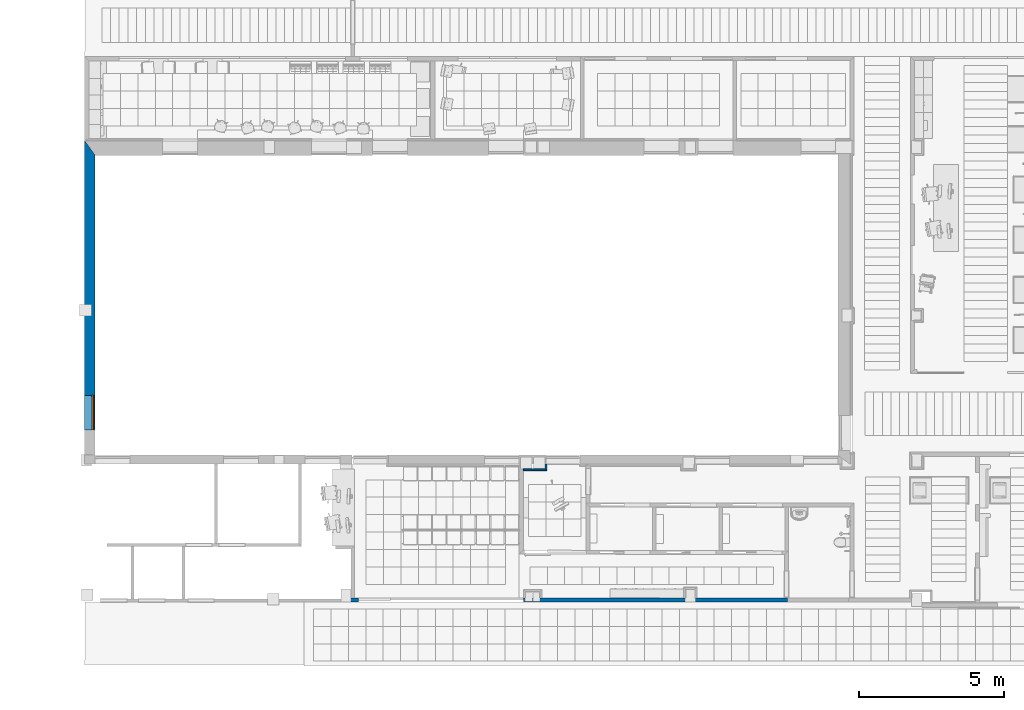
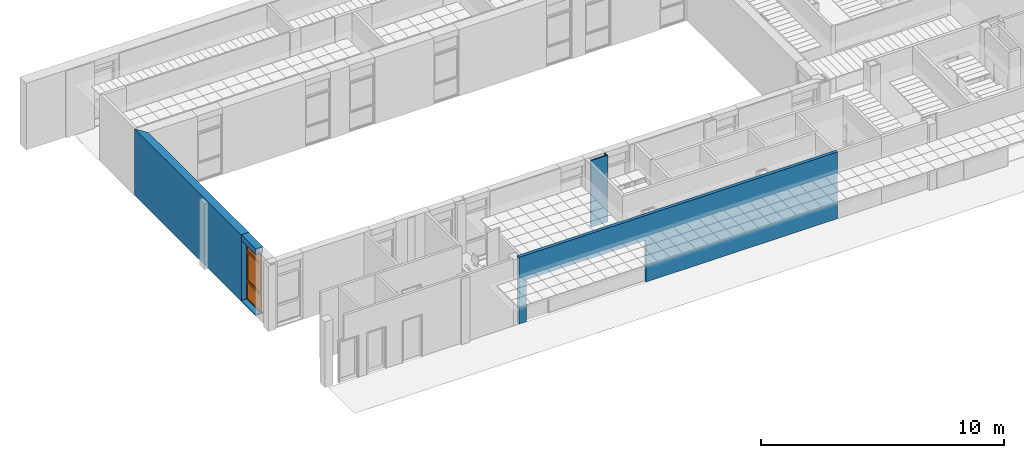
# One storey, part 27 of 68: 5 walls, 1 proxy, 3 openings.
"""IFC2X3 building model written with IfcOpenShell, lengths in millimetres."""

from ifc_helpers import new_model, entity, si_unit, converted_unit, derived_unit, money_unit, direction, frame, origin_with_axes, origin_2d_with_axis, place, context, subcontext, project, spatial, polyline, rectangle, outline, extrude, open_shell, faceted_brep, surface_model, source, transform, mapped, material, layer, layer_set, layer_usage, type_object, element, fill, save


model = new_model("IFC2X3")

# Units and contexts
model_context = context("Model", 3, precision=0.01, world=origin_with_axes(), true_north=direction((0.0, 1.0)))
body_context = subcontext(model_context, "Body", "Model", "MODEL_VIEW")
ifc_project = project(units=[si_unit("LENGTHUNIT", "METRE", prefix="MILLI"), si_unit("AREAUNIT", "SQUARE_METRE"), si_unit("VOLUMEUNIT", "CUBIC_METRE"), converted_unit("PLANEANGLEUNIT", "DEGREE", entity("IfcPlaneAngleMeasure", 0.0174532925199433), si_unit("PLANEANGLEUNIT", "RADIAN"), dimensions=[0, 0, 0, 0, 0, 0, 0]), money_unit("USD"), converted_unit("TIMEUNIT", "Year", entity("IfcTimeMeasure", 31557600.0), si_unit("TIMEUNIT", "SECOND"), dimensions=[0, 0, 1, 0, 0, 0, 0]), si_unit("MASSUNIT", "GRAM", prefix="KILO"), si_unit("THERMODYNAMICTEMPERATUREUNIT", "DEGREE_CELSIUS"), si_unit("LUMINOUSINTENSITYUNIT", "LUMEN"), si_unit("ENERGYUNIT", "JOULE", prefix="MEGA"), derived_unit("THERMALCONDUCTANCEUNIT", [(si_unit("POWERUNIT", "WATT"), 1), (si_unit("LENGTHUNIT", "METRE"), -1), (si_unit("THERMODYNAMICTEMPERATUREUNIT", "KELVIN"), -1)]), derived_unit("SPECIFICHEATCAPACITYUNIT", [(si_unit("ENERGYUNIT", "JOULE"), 1), (si_unit("MASSUNIT", "GRAM", prefix="KILO"), -1), (si_unit("THERMODYNAMICTEMPERATUREUNIT", "KELVIN"), -1)]), derived_unit("MASSDENSITYUNIT", [(si_unit("MASSUNIT", "GRAM", prefix="KILO"), 1), (si_unit("VOLUMEUNIT", "CUBIC_METRE"), -1)])], contexts=[model_context])

# Site, building, storey
site_placement = place(None, origin_with_axes())
site = spatial("IfcSite", under=ifc_project, at=site_placement, Name="Sitio", CompositionType="ELEMENT")
building_placement = place(site_placement, origin_with_axes())
building = spatial("IfcBuilding", under=site, at=building_placement, Name="Construcción", CompositionType="ELEMENT")
storey_placement = place(building_placement, origin_with_axes())
storey = spatial("IfcBuildingStorey", under=building, at=storey_placement, Name="PLANTA 1ª", CompositionType="ELEMENT", Elevation=0.0)

# Wall
ifc_material_1 = material(Name="ARQ_CE217_Gero")
ifc_layer_1 = layer(ifc_material_1, 150.0, ventilated="UNKNOWN")
ifc_material_2 = material(Name="ARQ_AI031_Aillament_Poliestireno expandido EPS")
ifc_layer_2 = layer(ifc_material_2, 140.0, ventilated="UNKNOWN")
ifc_material_3 = material(Name="ARQ_CE218_Ceramic")
ifc_layer_3 = layer(ifc_material_3, 50.0, ventilated="UNKNOWN")
ifc_material_4 = material(Name="ARQ_AM246_Arrebossat_De_Guix")
ifc_layer_4 = layer(ifc_material_4, 20.0, ventilated="UNKNOWN")
ifc_layer_set_1 = layer_set([ifc_layer_1, ifc_layer_2, ifc_layer_3, ifc_layer_4], Name="façana pati CR4")
ifc_layer_usage_1 = layer_usage(ifc_layer_set_1, "AXIS2", "POSITIVE", -360.0000000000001)
wall_type_1 = type_object("IfcWallType", Name="façana pati CR4 360", PredefinedType="NOTDEFINED")
wall_1_placement = place(storey_placement, frame((-28050.84818028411, -9964.97582371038, 0.0), z_axis=(0.0, 0.0, 1.0), x_axis=(0.0, 1.0, 0.0)))
element("IfcWallStandardCase", 1, at=wall_1_placement, inside=storey, type_object=wall_type_1, material=ifc_layer_usage_1, Name="MS-200", context=body_context, shape_type="SweptSolid", body=[
    extrude(outline(polyline([(0.0, -359.9999999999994), (8265.999999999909, -359.9999999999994), (8770.99999999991, 0.0), (0.0, 0.0), (0.0, -359.9999999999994)])), origin_with_axes(), (0.0, 0.0, 1.0), 3350.0),
])

# Wall, opening, proxy
ifc_layer_5 = layer(ifc_material_4, 20.0, ventilated="UNKNOWN")
ifc_layer_6 = layer(ifc_material_1, 150.0, ventilated="UNKNOWN")
ifc_layer_7 = layer(ifc_material_2, 110.0, ventilated="UNKNOWN")
ifc_layer_8 = layer(ifc_material_3, 50.0, ventilated="UNKNOWN")
ifc_layer_9 = layer(ifc_material_4, 20.0, ventilated="UNKNOWN")
ifc_layer_set_2 = layer_set([ifc_layer_5, ifc_layer_6, ifc_layer_7, ifc_layer_8, ifc_layer_9], Name="façana pati CR4 (Ampit)")
ifc_layer_usage_2 = layer_usage(ifc_layer_set_2, "AXIS2", "POSITIVE", -350.0)
wall_type_2 = type_object("IfcWallType", Name="façana pati CR4 (Ampit) 350", PredefinedType="NOTDEFINED")
wall_2_placement = place(storey_placement, frame((-28050.84818028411, -11150.97582371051, 0.0), z_axis=(0.0, 0.0, 1.0), x_axis=(0.0, 1.0, 0.0)))
wall_2 = element("IfcWallStandardCase", 2, at=wall_2_placement, inside=storey, type_object=wall_type_2, material=ifc_layer_usage_2, Name="MS-200", context=body_context, shape_type="SweptSolid", body=[
    extrude(outline(polyline([(0.0, -350.0000000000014), (1186.000000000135, -350.0000000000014), (1186.000000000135, 0.0), (0.0, 0.0), (0.0, -350.0000000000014)])), origin_with_axes(), (0.0, 0.0, 1.0), 3350.0),
])
opening_1_placement = place(wall_2_placement, frame((600.0000000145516, 0.0, 50.0), z_axis=(0.0, 0.0, 1.0), x_axis=(1.0, 0.0, 0.0)))
opening_1 = element("IfcOpeningElement", 3, at=opening_1_placement, cuts=wall_2, Name="V - 008", context=body_context, shape_type="SweptSolid", body=[
    extrude(rectangle(XDim=1200.000000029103, YDim=3000.0, at=origin_2d_with_axis()), frame((0.0, -300.0000000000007, 1500.0), z_axis=(0.0, -1.0, 0.0), x_axis=(-1.0, 0.0, 0.0)), (0.0, 0.0, -1.0), 650.0000000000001),
    extrude(rectangle(XDim=1200.000000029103, YDim=3000.0, at=origin_2d_with_axis()), frame((0.0, -300.0000000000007, 1500.0), z_axis=(0.0, 1.0, 0.0), x_axis=(-1.0, 0.0, 0.0)), (0.0, 0.0, -1.0), 400.0),
])
building_element_proxy_type = type_object("IfcBuildingElementProxyType", Name="Ventana Vertical Multi-Faja 27", PredefinedType="NOTDEFINED")
shared_shape = source(origin_with_axes(), body_context, "Body", "SurfaceModel", [
    faceted_brep([(-575.0000000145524, 0.0, 925.0), (-550.0000000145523, 0.0, 925.0), (-550.0000000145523, 0.0, 850.0), (-550.0000000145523, 0.0, 50.00000000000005), (-600.0000000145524, 0.0, 50.00000000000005), (-600.0000000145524, 0.0, 2950.0), (-550.0000000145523, 0.0, 2950.0), (-550.0000000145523, 0.0, 2450.0), (-550.0000000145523, 0.0, 2375.0), (-575.0000000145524, 0.0, 2375.0), (-575.0000000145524, -25.00000000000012, 925.0), (-550.0000000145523, -25.00000000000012, 925.0), (-550.0000000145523, -25.00000000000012, 950.0000000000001), (-550.0000000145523, -50.00000000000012, 950.0000000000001), (-550.0000000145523, -50.00000000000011, 850.0), (-550.0000000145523, -50.00000000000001, 50.00000000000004), (-600.0000000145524, -50.00000000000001, 50.00000000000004), (-600.0000000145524, -50.00000000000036, 2950.0), (-550.0000000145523, -50.00000000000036, 2950.0), (-550.0000000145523, -50.0000000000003, 2450.0), (-550.0000000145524, -25.00000000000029, 2375.0), (-550.0000000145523, -50.00000000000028, 2350.0), (-550.0000000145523, -25.00000000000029, 2350.0), (-575.0000000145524, -25.00000000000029, 2375.0)], [[[0, 1, 2, 3, 4, 5, 6, 7, 8, 9]], [[0, 10, 11, 1]], [[11, 12, 13, 14, 2, 1]], [[3, 2, 14, 15]], [[4, 3, 15, 16]], [[5, 4, 16, 17]], [[6, 5, 17, 18]], [[7, 6, 18, 19]], [[20, 8, 7, 19, 21, 22]], [[20, 23, 9, 8]], [[9, 23, 10, 0]], [[22, 12, 11, 10, 23, 20]], [[22, 21, 13, 12]], [[17, 16, 15, 14, 13, 21, 19, 18]]]),
    faceted_brep([(575.0000000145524, 0.0, 925.0), (575.0000000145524, 0.0, 2375.0), (550.0000000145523, 0.0, 2375.0), (550.0000000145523, 0.0, 2450.0), (550.0000000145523, 0.0, 2950.0), (600.0000000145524, 0.0, 2950.0), (600.0000000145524, 0.0, 50.00000000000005), (550.0000000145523, 0.0, 50.00000000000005), (550.0000000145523, 0.0, 850.0), (550.0000000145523, 0.0, 925.0), (575.0000000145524, -25.00000000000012, 925.0), (575.0000000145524, -25.00000000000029, 2375.0), (550.0000000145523, -25.00000000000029, 2375.0), (550.0000000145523, -25.00000000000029, 2350.0), (550.0000000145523, -50.00000000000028, 2350.0), (550.0000000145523, -50.0000000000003, 2450.0), (550.0000000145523, -50.00000000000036, 2950.0), (600.0000000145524, -50.00000000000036, 2950.0), (600.0000000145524, -50.00000000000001, 50.00000000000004), (550.0000000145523, -50.00000000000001, 50.00000000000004), (550.0000000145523, -50.00000000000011, 850.0), (550.0000000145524, -25.00000000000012, 925.0), (550.0000000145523, -50.00000000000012, 950.0000000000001), (550.0000000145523, -25.00000000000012, 950.0000000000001)], [[[0, 1, 2, 3, 4, 5, 6, 7, 8, 9]], [[0, 10, 11, 1]], [[1, 11, 12, 2]], [[12, 13, 14, 15, 3, 2]], [[4, 3, 15, 16]], [[5, 4, 16, 17]], [[6, 5, 17, 18]], [[7, 6, 18, 19]], [[8, 7, 19, 20]], [[21, 9, 8, 20, 22, 23]], [[9, 21, 10, 0]], [[12, 11, 10, 21, 23, 13]], [[23, 22, 14, 13]], [[14, 22, 20, 19, 18, 17, 16, 15]]]),
    faceted_brep([(-550.0000000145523, -25.00000000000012, 950.0000000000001), (-550.0000000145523, -50.00000000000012, 950.0000000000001), (550.0000000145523, -50.00000000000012, 950.0000000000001), (550.0000000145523, -25.00000000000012, 950.0000000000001), (-550.0000000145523, -25.00000000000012, 925.0), (-550.0000000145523, 0.0, 925.0), (-550.0000000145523, 0.0, 850.0), (-550.0000000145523, -50.00000000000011, 850.0), (550.0000000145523, -50.00000000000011, 850.0), (550.0000000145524, -25.00000000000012, 925.0), (550.0000000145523, 0.0, 850.0), (550.0000000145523, 0.0, 925.0)], [[[0, 1, 2, 3]], [[4, 5, 6, 7, 1, 0]], [[1, 7, 8, 2]], [[9, 3, 2, 8, 10, 11]], [[9, 4, 0, 3]], [[5, 4, 9, 11]], [[11, 10, 6, 5]], [[6, 10, 8, 7]]]),
    faceted_brep([(-550.0000000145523, 0.0, 2375.0), (-550.0000000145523, 0.0, 2450.0), (550.0000000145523, 0.0, 2450.0), (550.0000000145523, 0.0, 2375.0), (-550.0000000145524, -25.00000000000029, 2375.0), (-550.0000000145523, -25.00000000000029, 2350.0), (-550.0000000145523, -50.00000000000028, 2350.0), (-550.0000000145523, -50.0000000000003, 2450.0), (550.0000000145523, -50.0000000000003, 2450.0), (550.0000000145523, -25.00000000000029, 2375.0), (550.0000000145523, -50.00000000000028, 2350.0), (550.0000000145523, -25.00000000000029, 2350.0)], [[[0, 1, 2, 3]], [[4, 5, 6, 7, 1, 0]], [[2, 1, 7, 8]], [[9, 3, 2, 8, 10, 11]], [[9, 4, 0, 3]], [[11, 5, 4, 9]], [[11, 10, 6, 5]], [[7, 6, 10, 8]]]),
    faceted_brep([(550.0000000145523, -50.00000000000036, 2950.0), (550.0000000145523, 0.0, 2950.0), (600.0000000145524, 0.0, 2950.0), (600.0000000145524, -50.00000000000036, 2950.0), (-550.0000000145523, -50.00000000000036, 2950.0), (-550.0000000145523, 0.0, 2950.0), (-600.0000000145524, 0.0, 2950.0), (-600.0000000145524, 0.0, 3000.0), (600.0000000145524, 0.0, 3000.0), (600.0000000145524, -50.00000000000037, 3000.0), (-600.0000000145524, -50.00000000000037, 3000.0), (-600.0000000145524, -50.00000000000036, 2950.0)], [[[0, 1, 2, 3]], [[4, 5, 1, 0]], [[1, 5, 6, 7, 8, 2]], [[3, 2, 8, 9]], [[0, 3, 9, 10, 11, 4]], [[11, 6, 5, 4]], [[10, 7, 6, 11]], [[9, 8, 7, 10]]]),
    faceted_brep([(-550.0000000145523, -50.00000000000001, 50.0), (-550.0000000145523, 0.0, 50.00000000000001), (-600.0000000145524, 0.0, 50.00000000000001), (-600.0000000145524, -50.00000000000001, 50.0), (550.0000000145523, -50.00000000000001, 50.0), (550.0000000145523, 0.0, 50.00000000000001), (600.0000000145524, 0.0, 50.00000000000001), (600.0000000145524, 0.0, 0.0), (-600.0000000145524, 0.0, 0.0), (-600.0000000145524, -50.0, 0.0), (600.0000000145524, -50.0, 0.0), (600.0000000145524, -50.00000000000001, 50.0)], [[[0, 1, 2, 3]], [[4, 5, 1, 0]], [[1, 5, 6, 7, 8, 2]], [[3, 2, 8, 9]], [[0, 3, 9, 10, 11, 4]], [[11, 6, 5, 4]], [[10, 7, 6, 11]], [[9, 8, 7, 10]]]),
    surface_model("IfcShellBasedSurfaceModel", [(-550.0000000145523, -35.0, 49.99999999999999), (550.0000000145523, -35.0, 49.99999999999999), (550.0000000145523, -35.0000000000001, 850.0), (-550.0000000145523, -35.0000000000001, 850.0)], [open_shell([[[0, 1, 2, 3]]])]),
    surface_model("IfcShellBasedSurfaceModel", [(-550.0000000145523, -15.0, 49.99999999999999), (-550.0000000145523, -15.0000000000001, 850.0), (550.0000000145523, -15.0000000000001, 850.0), (550.0000000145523, -15.0, 49.99999999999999)], [open_shell([[[0, 1, 2, 3]]])]),
    faceted_brep([(-521.5000000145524, -25.00000000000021, 1677.0), (-522.839745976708, -25.00000000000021, 1682.0), (-522.839745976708, -37.00000000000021, 1682.0), (-521.5000000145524, -37.00000000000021, 1677.0), (-521.5000000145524, -25.0000000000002, 1623.0), (-522.839745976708, -25.0000000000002, 1618.0), (-526.5000000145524, -25.0000000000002, 1614.339745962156), (-531.5000000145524, -25.0000000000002, 1613.0), (-543.5000000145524, -25.0000000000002, 1613.0), (-548.5000000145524, -25.0000000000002, 1614.339745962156), (-552.1602540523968, -25.0000000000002, 1618.0), (-553.5000000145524, -25.0000000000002, 1623.0), (-553.5000000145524, -25.00000000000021, 1677.0), (-552.1602540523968, -25.00000000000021, 1682.0), (-548.5000000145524, -25.00000000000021, 1685.660254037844), (-543.5000000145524, -25.00000000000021, 1687.0), (-531.5000000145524, -25.00000000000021, 1687.0), (-526.5000000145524, -25.00000000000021, 1685.660254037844), (-526.5000000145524, -37.00000000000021, 1685.660254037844), (-531.5000000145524, -37.00000000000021, 1687.0), (-543.5000000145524, -37.00000000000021, 1687.0), (-548.5000000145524, -37.00000000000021, 1685.660254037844), (-552.1602540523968, -37.00000000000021, 1682.0), (-553.5000000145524, -37.00000000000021, 1677.0), (-553.5000000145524, -37.0000000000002, 1623.0), (-552.1602540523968, -37.0000000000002, 1618.0), (-548.5000000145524, -37.0000000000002, 1614.339745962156), (-543.5000000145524, -37.0000000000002, 1613.0), (-531.5000000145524, -37.0000000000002, 1613.0), (-526.5000000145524, -37.0000000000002, 1614.339745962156), (-522.839745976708, -37.0000000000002, 1618.0), (-521.5000000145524, -37.0000000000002, 1623.0)], [[[0, 1, 2, 3]], [[0, 4, 5, 6, 7, 8, 9, 10, 11, 12, 13, 14, 15, 16, 17, 1]], [[1, 17, 18, 2]], [[3, 2, 18, 19, 20, 21, 22, 23, 24, 25, 26, 27, 28, 29, 30, 31]], [[4, 0, 3, 31]], [[5, 4, 31, 30]], [[6, 5, 30, 29]], [[7, 6, 29, 28]], [[8, 7, 28, 27]], [[9, 8, 27, 26]], [[10, 9, 26, 25]], [[11, 10, 25, 24]], [[12, 11, 24, 23]], [[13, 12, 23, 22]], [[14, 13, 22, 21]], [[15, 14, 21, 20]], [[16, 15, 20, 19]], [[17, 16, 19, 18]]]),
    faceted_brep([(-537.5000000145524, -37.0000000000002, 1663.5), (-544.2500000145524, -37.0000000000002, 1661.69134295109), (-544.2500000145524, -61.00000000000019, 1661.69134295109), (-537.5000000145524, -61.00000000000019, 1663.5), (-530.7500000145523, -37.0000000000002, 1661.69134295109), (-525.8086570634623, -37.0000000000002, 1656.75), (-524.0000000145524, -37.0000000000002, 1650.0), (-525.8086570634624, -37.0000000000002, 1643.25), (-530.7500000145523, -37.0000000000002, 1638.30865704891), (-537.5000000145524, -37.0000000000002, 1636.5), (-544.2500000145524, -37.0000000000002, 1638.30865704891), (-549.1913429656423, -37.0000000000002, 1643.25), (-551.0000000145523, -37.0000000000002, 1650.0), (-549.1913429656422, -37.0000000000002, 1656.75), (-549.1913429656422, -61.00000000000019, 1656.75), (-551.0000000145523, -61.00000000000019, 1650.0), (-549.1913429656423, -61.00000000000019, 1643.25), (-544.2500000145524, -61.00000000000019, 1638.30865704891), (-537.5000000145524, -61.00000000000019, 1636.5), (-530.7500000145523, -61.00000000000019, 1638.30865704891), (-525.8086570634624, -61.00000000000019, 1643.25), (-524.0000000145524, -61.00000000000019, 1650.0), (-525.8086570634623, -61.00000000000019, 1656.75), (-530.7500000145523, -61.00000000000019, 1661.69134295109)], [[[0, 1, 2, 3]], [[0, 4, 5, 6, 7, 8, 9, 10, 11, 12, 13, 1]], [[1, 13, 14, 2]], [[3, 2, 14, 15, 16, 17, 18, 19, 20, 21, 22, 23]], [[4, 0, 3, 23]], [[5, 4, 23, 22]], [[6, 5, 22, 21]], [[7, 6, 21, 20]], [[8, 7, 20, 19]], [[9, 8, 19, 18]], [[10, 9, 18, 17]], [[11, 10, 17, 16]], [[12, 11, 16, 15]], [[13, 12, 15, 14]]]),
    faceted_brep([(-526.0000000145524, -61.00000000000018, 1543.0), (-537.5000000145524, -61.00000000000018, 1540.0), (-549.0000000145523, -61.00000000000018, 1543.0), (-551.0000000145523, -61.00000000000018, 1546.0), (-551.0000000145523, -61.00000000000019, 1650.0), (-549.1913429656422, -61.00000000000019, 1656.75), (-544.2500000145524, -61.00000000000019, 1661.69134295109), (-537.5000000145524, -61.00000000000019, 1663.5), (-530.7500000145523, -61.00000000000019, 1661.69134295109), (-525.8086570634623, -61.00000000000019, 1656.75), (-524.0000000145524, -61.00000000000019, 1650.0), (-524.0000000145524, -61.00000000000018, 1546.0), (-525.9999999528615, -69.00000000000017, 1543.000000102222), (-537.4999999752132, -69.00000000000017, 1539.999999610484), (-548.9999999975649, -69.00000000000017, 1543.000000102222), (-551.0000003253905, -69.00000000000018, 1545.999999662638), (-551.0000003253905, -69.0000000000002, 1649.99999994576), (-549.1913430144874, -69.0000000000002, 1656.749999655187), (-544.2499996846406, -69.0000000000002, 1661.691342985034), (-537.4999999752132, -69.0000000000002, 1663.500000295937), (-530.7500002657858, -69.0000000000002, 1661.691342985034), (-525.808656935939, -69.0000000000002, 1656.749999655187), (-523.9999996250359, -69.0000000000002, 1649.99999994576), (-523.9999996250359, -69.00000000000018, 1545.999999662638), (-527.8625374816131, -71.99999956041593, 1545.61451963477), (-537.4999999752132, -71.99999956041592, 1543.100398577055), (-547.1374624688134, -71.99999956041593, 1545.61451963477), (-548.0000007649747, -71.99999956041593, 1546.908326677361), (-548.0000007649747, -71.99999956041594, 1649.605042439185), (-546.5016170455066, -71.99999956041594, 1655.197085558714), (-542.6970855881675, -71.99999956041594, 1659.001617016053), (-537.4999999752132, -71.99999956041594, 1660.394172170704), (-532.302914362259, -71.99999956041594, 1659.001617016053), (-528.4983829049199, -71.99999956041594, 1655.197085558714), (-526.9999991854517, -71.99999956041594, 1649.605042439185), (-526.9999991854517, -71.99999956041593, 1546.908326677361)], [[[0, 1, 2, 3, 4, 5, 6, 7, 8, 9, 10, 11]], [[1, 0, 12, 13]], [[2, 1, 13, 14]], [[3, 2, 14, 15]], [[4, 3, 15, 16]], [[5, 4, 16, 17]], [[6, 5, 17, 18]], [[7, 6, 18, 19]], [[8, 7, 19, 20]], [[9, 8, 20, 21]], [[10, 9, 21, 22]], [[11, 10, 22, 23]], [[0, 11, 23, 12]], [[13, 12, 24, 25]], [[14, 13, 25, 26]], [[15, 14, 26, 27]], [[16, 15, 27, 28]], [[17, 16, 28, 29]], [[18, 17, 29, 30]], [[19, 18, 30, 31]], [[20, 19, 31, 32]], [[21, 20, 32, 33]], [[22, 21, 33, 34]], [[23, 22, 34, 35]], [[12, 23, 35, 24]], [[26, 25, 24, 35, 34, 33, 32, 31, 30, 29, 28, 27]]]),
    faceted_brep([(-525.0000000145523, -25.00000000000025, 2325.0), (-525.0000000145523, 24.99999999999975, 2325.0), (-575.0000000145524, 24.99999999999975, 2325.0), (-575.0000000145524, -25.00000000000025, 2325.0), (-525.0000000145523, -25.00000000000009, 975.0000000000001), (-525.0000000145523, 24.99999999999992, 975.0000000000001), (-575.0000000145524, 24.99999999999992, 975.0000000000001), (-575.0000000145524, -25.00000000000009, 975.0000000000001)], [[[0, 1, 2, 3]], [[4, 5, 1, 0]], [[1, 5, 6, 2]], [[3, 2, 6, 7]], [[0, 3, 7, 4]], [[7, 6, 5, 4]]]),
    faceted_brep([(525.0000000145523, -25.00000000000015, 975.0000000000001), (525.0000000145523, 24.99999999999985, 975.0000000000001), (575.0000000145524, 24.99999999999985, 975.0000000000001), (575.0000000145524, -25.00000000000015, 975.0000000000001), (525.0000000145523, -25.00000000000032, 2325.0), (525.0000000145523, 24.99999999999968, 2325.0), (575.0000000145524, 24.99999999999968, 2325.0), (575.0000000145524, -25.00000000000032, 2325.0)], [[[0, 1, 2, 3]], [[4, 5, 1, 0]], [[1, 5, 6, 2]], [[3, 2, 6, 7]], [[0, 3, 7, 4]], [[7, 6, 5, 4]]]),
    faceted_brep([(575.0000000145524, -25.00000000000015, 925.0), (575.0000000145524, 24.99999999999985, 925.0), (575.0000000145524, 24.99999999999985, 975.0000000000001), (575.0000000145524, -25.00000000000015, 975.0000000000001), (-575.0000000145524, -25.00000000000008, 925.0), (-575.0000000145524, 24.99999999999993, 925.0), (-575.0000000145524, 24.99999999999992, 975.0000000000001), (-525.0000000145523, 24.99999999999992, 975.0000000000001), (525.0000000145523, 24.99999999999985, 975.0000000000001), (525.0000000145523, -25.00000000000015, 975.0000000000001), (-525.0000000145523, -25.00000000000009, 975.0000000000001), (-575.0000000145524, -25.00000000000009, 975.0000000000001)], [[[0, 1, 2, 3]], [[4, 5, 1, 0]], [[1, 5, 6, 7, 8, 2]], [[3, 2, 8, 9]], [[0, 3, 9, 10, 11, 4]], [[11, 6, 5, 4]], [[10, 7, 6, 11]], [[9, 8, 7, 10]]]),
    faceted_brep([(-575.0000000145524, -25.00000000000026, 2375.0), (-575.0000000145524, 24.99999999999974, 2375.0), (-575.0000000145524, 24.99999999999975, 2325.0), (-575.0000000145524, -25.00000000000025, 2325.0), (575.0000000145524, -25.00000000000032, 2375.0), (575.0000000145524, 24.99999999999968, 2375.0), (575.0000000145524, 24.99999999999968, 2325.0), (525.0000000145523, 24.99999999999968, 2325.0), (-525.0000000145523, 24.99999999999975, 2325.0), (-525.0000000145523, -25.00000000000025, 2325.0), (525.0000000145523, -25.00000000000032, 2325.0), (575.0000000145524, -25.00000000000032, 2325.0)], [[[0, 1, 2, 3]], [[4, 5, 1, 0]], [[1, 5, 6, 7, 8, 2]], [[3, 2, 8, 9]], [[0, 3, 9, 10, 11, 4]], [[11, 6, 5, 4]], [[10, 7, 6, 11]], [[9, 8, 7, 10]]]),
    surface_model("IfcShellBasedSurfaceModel", [(-525.0000000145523, -10.00000000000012, 975.0000000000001), (525.0000000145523, -10.00000000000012, 975.0000000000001), (525.0000000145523, -10.00000000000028, 2325.0), (-525.0000000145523, -10.00000000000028, 2325.0)], [open_shell([[[0, 1, 2, 3]]])]),
    surface_model("IfcShellBasedSurfaceModel", [(-525.0000000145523, 9.999999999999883, 975.0000000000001), (-525.0000000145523, 9.99999999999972, 2325.0), (525.0000000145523, 9.99999999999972, 2325.0), (525.0000000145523, 9.999999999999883, 975.0000000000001)], [open_shell([[[0, 1, 2, 3]]])]),
    surface_model("IfcShellBasedSurfaceModel", [(-550.0000000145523, -35.0000000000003, 2450.0), (550.0000000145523, -35.0000000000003, 2450.0), (550.0000000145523, -35.00000000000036, 2950.0), (-550.0000000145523, -35.00000000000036, 2950.0)], [open_shell([[[0, 1, 2, 3]]])]),
    surface_model("IfcShellBasedSurfaceModel", [(-550.0000000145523, -15.0000000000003, 2450.0), (-550.0000000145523, -15.00000000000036, 2950.0), (550.0000000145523, -15.00000000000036, 2950.0), (550.0000000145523, -15.0000000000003, 2450.0)], [open_shell([[[0, 1, 2, 3]]])]),
])
proxy_placement = place(opening_1_placement, frame((600.0000000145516, 0.0, 0.0), z_axis=(0.0, 0.0, 1.0), x_axis=(-1.0, 0.0, 0.0)))
proxy = element("IfcBuildingElementProxy", 4, at=proxy_placement, inside=storey, type_object=building_element_proxy_type, Name="V - 008", context=body_context, shape_type="MappedRepresentation", body=[
    mapped(shared_shape, transform((600.0000000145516, 300.0000000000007, 0.0))),
])
fill(opening_1, proxy)

# Walls
ifc_material_5 = material(Name="ARQ_FU093_Panellat_HPL")
ifc_layer_10 = layer(ifc_material_5, 6.0, ventilated="UNKNOWN")
ifc_material_6 = material(Name="ARQ_EN271_Camara_Aire")
ifc_layer_11 = layer(ifc_material_6, 6.0, ventilated="UNKNOWN")
ifc_material_7 = material(Name="Panel de Yeso Laminado")
ifc_layer_12 = layer(ifc_material_7, 13.0, ventilated="UNKNOWN")
ifc_material_8 = material(Name="ARQ_AI033_Aillament_Llana_De_Roca")
ifc_layer_13 = layer(ifc_material_8, 40.0, ventilated="UNKNOWN")
ifc_layer_set_3 = layer_set([ifc_layer_10, ifc_layer_11, ifc_layer_12, ifc_layer_13], Name="Pladur Tras 40 / 1N +HPL")
ifc_layer_usage_3 = layer_usage(ifc_layer_set_3, "AXIS2", "POSITIVE", -65.0)
wall_type_3 = type_object("IfcWallType", Name="Pladur Tras 40 / 1N +HPL 65", PredefinedType="NOTDEFINED")
wall_3_placement = place(storey_placement, frame((-12197.41799369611, -12494.56065482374, 0.0), z_axis=(0.0, 0.0, 1.0), x_axis=(0.0, 1.0, 0.0)))
element("IfcWallStandardCase", 5, at=wall_3_placement, inside=storey, type_object=wall_type_3, material=ifc_layer_usage_3, Name="MS-250", context=body_context, shape_type="SweptSolid", body=[
    extrude(outline(polyline([(-64.9999999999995, -64.9999999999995), (155.5848311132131, -64.9999999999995), (155.5848311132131, 0.0), (0.0, 0.0), (-64.9999999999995, -64.9999999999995)])), origin_with_axes(), (0.0, 0.0, 1.0), 3350.0),
])
ifc_layer_usage_4 = layer_usage(ifc_layer_set_3, "AXIS2", "POSITIVE", -65.0)
wall_4_placement = place(storey_placement, frame((-13084.95603493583, -12494.56065482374, 0.0), z_axis=(0.0, 0.0, 1.0), x_axis=(1.0, 0.0, 0.0)))
element("IfcWallStandardCase", 6, at=wall_4_placement, inside=storey, type_object=wall_type_3, material=ifc_layer_usage_4, Name="MS-249", context=body_context, shape_type="SweptSolid", body=[
    extrude(outline(polyline([(145.9040832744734, -64.9999999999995), (952.5380412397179, -64.9999999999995), (887.5380412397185, 0.0), (146.0001594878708, 0.0), (145.9040832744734, -64.9999999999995)])), origin_with_axes(), (0.0, 0.0, 1.0), 3350.0),
])

# Wall, openings
ifc_layer_14 = layer(ifc_material_5, 6.0, ventilated="UNKNOWN")
ifc_layer_15 = layer(ifc_material_6, 6.0, ventilated="UNKNOWN")
ifc_layer_16 = layer(ifc_material_7, 13.0, ventilated="UNKNOWN")
ifc_layer_17 = layer(ifc_material_7, 13.0, ventilated="UNKNOWN")
ifc_layer_18 = layer(ifc_material_8, 70.0, ventilated="UNKNOWN")
ifc_layer_19 = layer(ifc_material_7, 13.0, ventilated="UNKNOWN")
ifc_layer_20 = layer(ifc_material_7, 13.0, ventilated="UNKNOWN")
ifc_layer_21 = layer(ifc_material_6, 6.0, ventilated="UNKNOWN")
ifc_layer_22 = layer(ifc_material_5, 6.0, ventilated="UNKNOWN")
ifc_layer_set_4 = layer_set([ifc_layer_14, ifc_layer_15, ifc_layer_16, ifc_layer_17, ifc_layer_18, ifc_layer_19, ifc_layer_20, ifc_layer_21, ifc_layer_22], Name="CR Pladur 70 HPL 2 cares")
ifc_layer_usage_5 = layer_usage(ifc_layer_set_4, "AXIS2", "POSITIVE", 0.0)
wall_type_4 = type_object("IfcWallType", Name="CR Pladur 70 HPL 2 cares 146", PredefinedType="NOTDEFINED")
wall_5_placement = place(storey_placement, frame((-18974.60726862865, -17083.97582371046, 0.0), z_axis=(0.0, 0.0, 1.0), x_axis=(1.0, 0.0, 0.0)))
wall_5 = element("IfcWallStandardCase", 7, at=wall_5_placement, inside=storey, type_object=wall_type_4, material=ifc_layer_usage_5, Name="MS-211", context=body_context, shape_type="SweptSolid", body=[
    extrude(outline(polyline([(0.0, 0.0), (15132.19856636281, 0.0), (15132.19856636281, 146.0000000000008), (0.0, 146.0000000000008), (0.0, 0.0)])), origin_with_axes(), (0.0, 0.0, 1.0), 3350.0),
])
opening_2_placement = place(wall_5_placement, frame((3747.282570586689, 0.0, 0.0), z_axis=(0.0, 0.0, 1.0), x_axis=(1.0, 0.0, 0.0)))
element("IfcOpeningElement", 8, at=opening_2_placement, cuts=wall_5, Name="M-01", context=body_context, shape_type="SweptSolid", body=[
    extrude(rectangle(XDim=4581.456224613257, YDim=2100.0, at=origin_2d_with_axis()), frame((0.0, -146.0000000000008, 1050.0), z_axis=(0.0, -1.0, 0.0), x_axis=(1.0, 0.0, 0.0)), (0.0, 0.0, -1.0), 438.0000000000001),
])
opening_3_placement = place(wall_5_placement, frame((906.5544582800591, 0.0, 0.0), z_axis=(0.0, 0.0, 1.0), x_axis=(1.0, 0.0, 0.0)))
element("IfcOpeningElement", 9, at=opening_3_placement, cuts=wall_5, Name="PM-1", context=body_context, shape_type="SweptSolid", body=[
    extrude(rectangle(XDim=1100.000000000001, YDim=2100.0, at=origin_2d_with_axis()), frame((0.0, -146.0000000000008, 1050.0), z_axis=(0.0, -1.0, 0.0), x_axis=(-1.0, 0.0, 0.0)), (0.0, 0.0, -1.0), 438.0000000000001),
])

save(model, "model.ifc")
